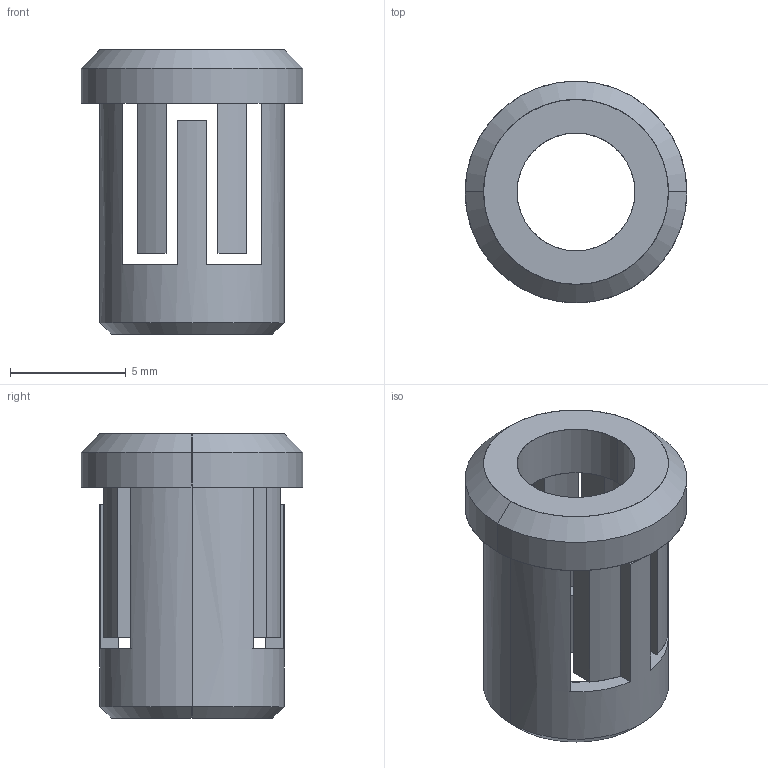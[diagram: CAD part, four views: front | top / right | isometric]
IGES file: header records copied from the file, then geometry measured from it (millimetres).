
Start section: SolidWorks IGES file using analytic representation for surfaces
Global section: file name: C:\DEV\Drawrings\3D_Models\products\11840\iges\11840.IGS; native system: SolidWorks 2014; preprocessor: SolidWorks 2014; author: Evan.Spitler; date: 150518.113513; units: millimetre
Bounding box: 9.6 x 9.6 x 12.3 mm (x, y, z)
Surface area: 674.2 mm2 (no closed solid volume)
Topology: 0 solids, 0 shells, 49 faces, 496 edges, 496 vertices
Faces by surface type: bspline 29, revolution 20
